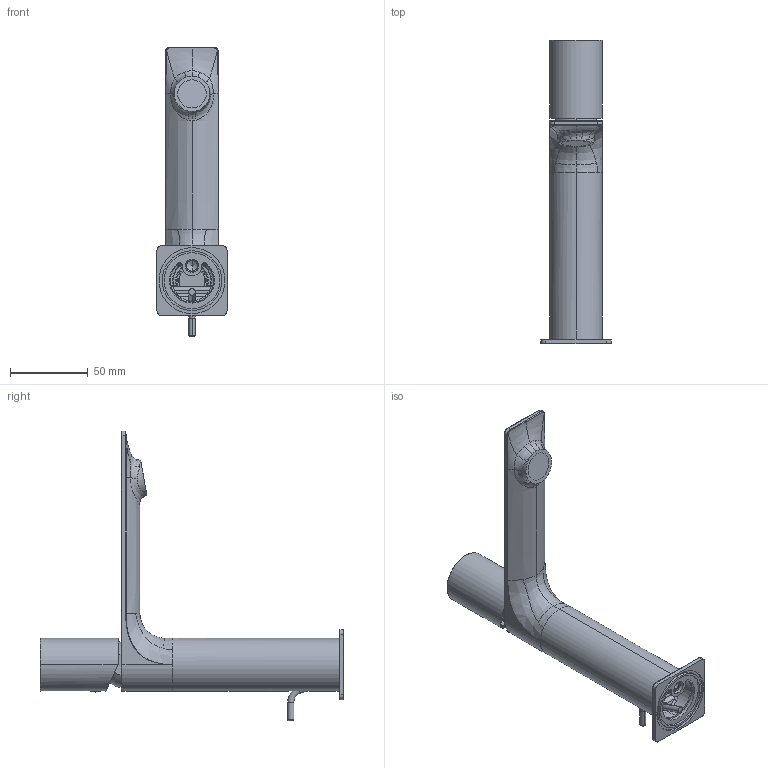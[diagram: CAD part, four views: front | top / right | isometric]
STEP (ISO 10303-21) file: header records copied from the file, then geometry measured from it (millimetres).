
FILE_DESCRIPTION((''),'2;1');
FILE_NAME('78054S_SW0001','2020-05-21T13:25:19',('volponeff'),(''),'CREO PARAMETRIC BY PTC INC, 2018100','CREO PARAMETRIC BY PTC INC, 2018100','');
FILE_SCHEMA(('CONFIG_CONTROL_DESIGN'));
Length unit declared in the file: millimetre
Products named in the file (1): 78054S_SW0001
Bounding box: 45 x 195 x 186.14 mm (x, y, z)
Volume: 108778.4 mm3; surface area: 66916.3 mm2
Topology: 2 solids, 3 shells, 412 faces, 990 edges, 581 vertices
Faces by surface type: cylinder 136, bspline 94, plane 89, cone 47, torus 40, extrusion 4, sphere 2
Entity records: 18944 total; most frequent: CARTESIAN_POINT 9981, ORIENTED_EDGE 1944, DIRECTION 1769, EDGE_CURVE 972, AXIS2_PLACEMENT_3D 730, VERTEX_POINT 581, EDGE_LOOP 441, CIRCLE 416
